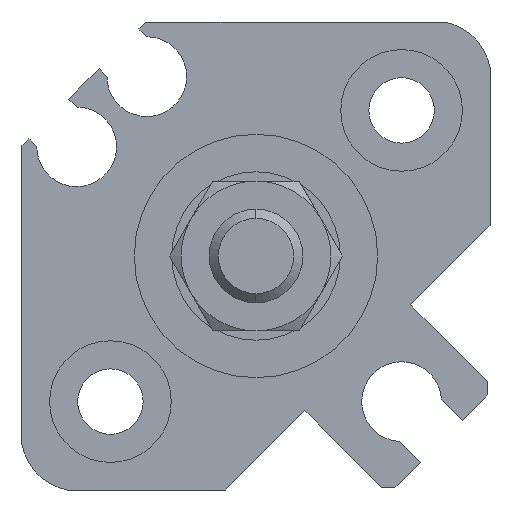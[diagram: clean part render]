
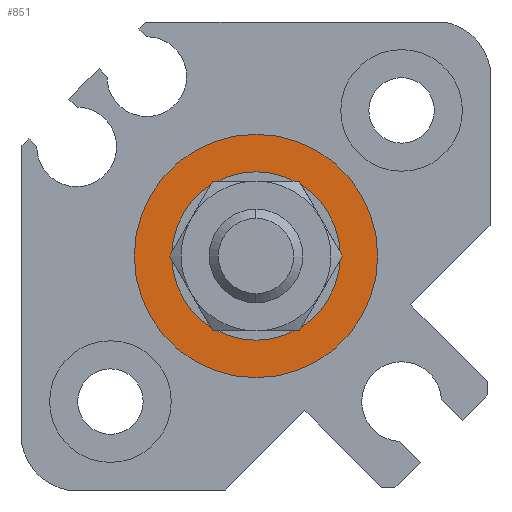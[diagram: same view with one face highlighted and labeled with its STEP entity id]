
A CAD part, left-side view. The second image highlights one B-rep face of the part: STEP entity #851.
In plain terms, the highlighted planar face has unit normal (-1, 0, 0).
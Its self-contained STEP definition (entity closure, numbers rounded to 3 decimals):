
#18 = DIRECTION ( 'NONE',  ( 0., 0., -1. ) ) ;
#133 = VERTEX_POINT ( 'NONE', #4683 ) ;
#294 = CIRCLE ( 'NONE', #1669, 6.5 ) ;
#331 = DIRECTION ( 'NONE',  ( 1., 0., 0. ) ) ;
#399 = EDGE_CURVE ( 'NONE', #133, #3426, #3131, .T. ) ;
#479 = CIRCLE ( 'NONE', #880, 4.5 ) ;
#560 = CARTESIAN_POINT ( 'NONE',  ( 0.9, 0., 0. ) ) ;
#649 = EDGE_CURVE ( 'NONE', #1784, #760, #3718, .T. ) ;
#732 = AXIS2_PLACEMENT_3D ( 'NONE', #2646, #3087, #1591 ) ;
#760 = VERTEX_POINT ( 'NONE', #1118 ) ;
#847 = CARTESIAN_POINT ( 'NONE',  ( 0.9, 0., 4.5 ) ) ;
#851 = ADVANCED_FACE ( 'NONE', ( #1543, #3057 ), #3516, .F. ) ;
#880 = AXIS2_PLACEMENT_3D ( 'NONE', #4122, #4551, #3725 ) ;
#973 = EDGE_LOOP ( 'NONE', ( #4375, #3085 ) ) ;
#1118 = CARTESIAN_POINT ( 'NONE',  ( 0.9, 0., -4.5 ) ) ;
#1543 = FACE_OUTER_BOUND ( 'NONE', #973, .T. ) ;
#1591 = DIRECTION ( 'NONE',  ( 0., 1., 0. ) ) ;
#1669 = AXIS2_PLACEMENT_3D ( 'NONE', #560, #4445, #4042 ) ;
#1784 = VERTEX_POINT ( 'NONE', #847 ) ;
#1917 = ORIENTED_EDGE ( 'NONE', *, *, #649, .T. ) ;
#1952 = DIRECTION ( 'NONE',  ( 1., 0., 0. ) ) ;
#2000 = CARTESIAN_POINT ( 'NONE',  ( 0.9, 0., 0. ) ) ;
#2643 = ORIENTED_EDGE ( 'NONE', *, *, #4120, .T. ) ;
#2646 = CARTESIAN_POINT ( 'NONE',  ( 0.9, 0., 0. ) ) ;
#2979 = DIRECTION ( 'NONE',  ( 0., 0., -1. ) ) ;
#3057 = FACE_BOUND ( 'NONE', #4335, .T. ) ;
#3085 = ORIENTED_EDGE ( 'NONE', *, *, #399, .F. ) ;
#3087 = DIRECTION ( 'NONE',  ( 1., 0., 0. ) ) ;
#3131 = CIRCLE ( 'NONE', #3358, 6.5 ) ;
#3243 = EDGE_CURVE ( 'NONE', #3426, #133, #294, .T. ) ;
#3333 = CARTESIAN_POINT ( 'NONE',  ( 0.9, 0., 6.5 ) ) ;
#3358 = AXIS2_PLACEMENT_3D ( 'NONE', #2000, #1952, #18 ) ;
#3383 = AXIS2_PLACEMENT_3D ( 'NONE', #4910, #331, #2979 ) ;
#3426 = VERTEX_POINT ( 'NONE', #3333 ) ;
#3516 = PLANE ( 'NONE',  #732 ) ;
#3718 = CIRCLE ( 'NONE', #3383, 4.5 ) ;
#3725 = DIRECTION ( 'NONE',  ( 0., 0., -1. ) ) ;
#4042 = DIRECTION ( 'NONE',  ( 0., 0., -1. ) ) ;
#4120 = EDGE_CURVE ( 'NONE', #760, #1784, #479, .T. ) ;
#4122 = CARTESIAN_POINT ( 'NONE',  ( 0.9, 0., 0. ) ) ;
#4335 = EDGE_LOOP ( 'NONE', ( #1917, #2643 ) ) ;
#4375 = ORIENTED_EDGE ( 'NONE', *, *, #3243, .F. ) ;
#4445 = DIRECTION ( 'NONE',  ( 1., 0., 0. ) ) ;
#4551 = DIRECTION ( 'NONE',  ( 1., 0., 0. ) ) ;
#4683 = CARTESIAN_POINT ( 'NONE',  ( 0.9, 0., -6.5 ) ) ;
#4910 = CARTESIAN_POINT ( 'NONE',  ( 0.9, 0., 0. ) ) ;
